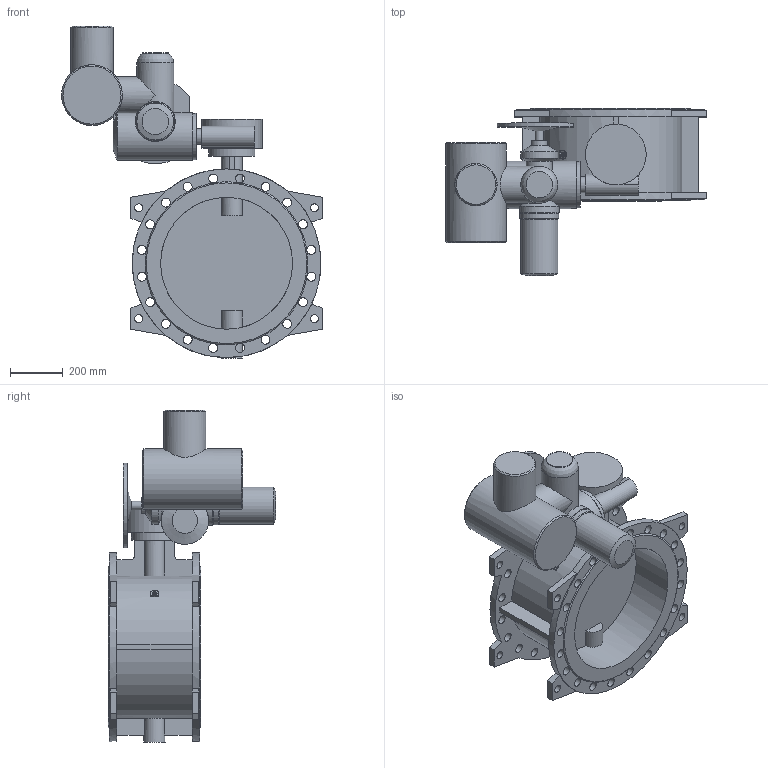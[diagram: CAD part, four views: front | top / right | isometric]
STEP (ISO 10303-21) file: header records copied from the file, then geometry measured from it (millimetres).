
FILE_DESCRIPTION(('STEP AP203'), '1');
FILE_NAME('Çàòâîð 023F.Z DN500 PN16 + ðåäóêòîð + ÌÒ903.À30 ñ ÁÓ', '', ('UNSPECIFIED'), ('UNSPECIFIED'), 'ASCON STEP Converter 1.6', 'ASCON Math Kernel', '');
FILE_SCHEMA(('CONFIG_CONTROL_DESIGN'));
Length unit declared in the file: millimetre
Bounding box: 988 x 634 x 1258 mm (x, y, z)
Volume: 77227347.9 mm3; surface area: 3913777.1 mm2
Topology: 1 solids, 1 shells, 230 faces, 686 edges, 452 vertices
Faces by surface type: cylinder 108, plane 108, cone 13, torus 1
Full cylindrical faces by diameter (mm): 14 x8, 18 x8, 30 x8, 32 x1, 34 x40, 60 x2, 80 x2, 100 x1, 140 x4, 147 x1, 151 x1, 160 x1, 175 x2, 180 x1, 230 x2, 500 x2, 715 x2
Entity records: 12989 total; most frequent: CARTESIAN_POINT 5035, DIRECTION 1275, ORIENTED_EDGE 1168, EDGE_CURVE 584, AXIS2_PLACEMENT_3D 542, VERTEX_POINT 451, EDGE_LOOP 419, CIRCLE 312
